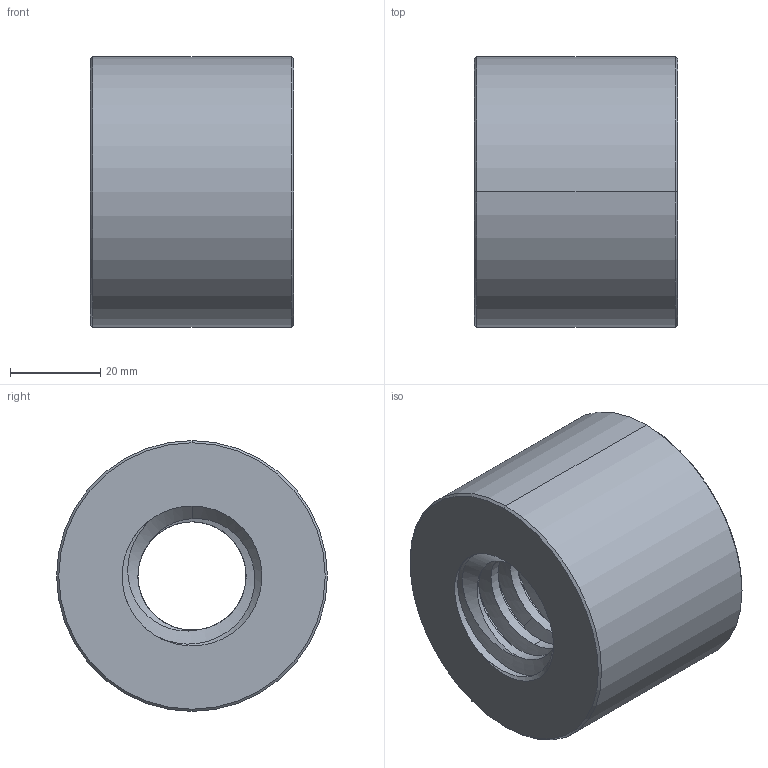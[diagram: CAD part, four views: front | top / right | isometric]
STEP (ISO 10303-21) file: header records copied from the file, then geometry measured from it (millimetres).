
FILE_DESCRIPTION((''),'2;1');
FILE_NAME('716-030-1100_PRT','2024-03-23T',('Brieden'),('ib-brieden'),'PRO/ENGINEER BY PARAMETRIC TECHNOLOGY CORPORATION, 2010160','PRO/ENGINEER BY PARAMETRIC TECHNOLOGY CORPORATION, 2010160','');
FILE_SCHEMA(('AUTOMOTIVE_DESIGN { 1 0 10303 214 1 1 1 1 }'));
Length unit declared in the file: millimetre
Products named in the file (1): 716-030-1100_PRT
Bounding box: 45 x 60 x 60 mm (x, y, z)
Volume: 99944.5 mm3; surface area: 19782 mm2
Topology: 1 solids, 1 shells, 33 faces, 81 edges, 50 vertices
Faces by surface type: cylinder 14, bspline 9, cone 8, plane 2
Entity records: 4174 total; most frequent: CARTESIAN_POINT 3433, ORIENTED_EDGE 162, DIRECTION 101, EDGE_CURVE 81, VERTEX_POINT 50, B_SPLINE_CURVE_WITH_KNOTS 42, AXIS2_PLACEMENT_3D 38, EDGE_LOOP 35
